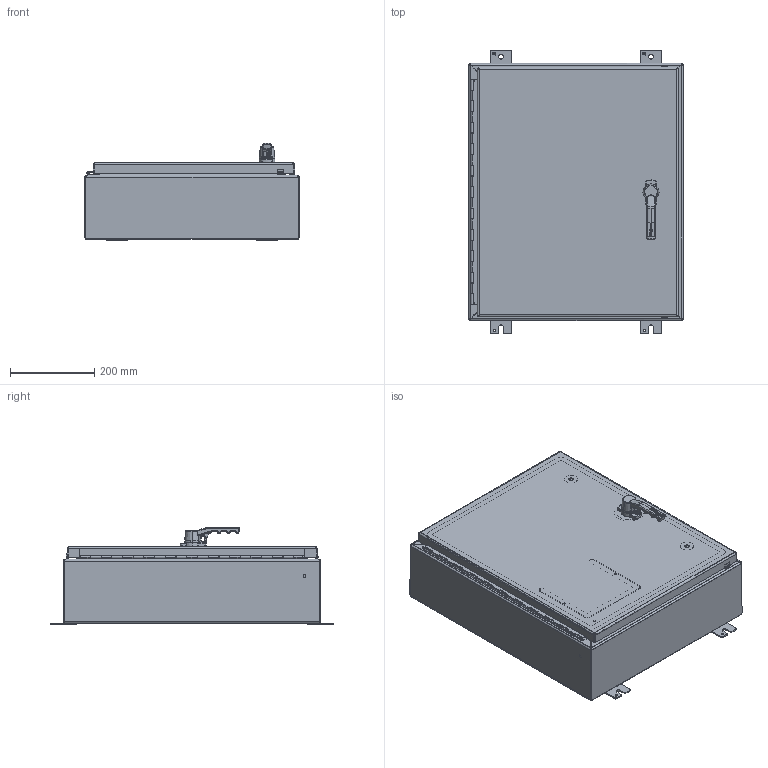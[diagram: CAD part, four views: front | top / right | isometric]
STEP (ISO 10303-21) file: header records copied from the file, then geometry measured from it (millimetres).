
FILE_DESCRIPTION (( 'STEP AP203' ), '1' );
FILE_NAME ('a24h2006sslp3pt.STEP', '2017-11-14T16:50:01', ( '' ), ( '' ), 'SwSTEP 2.0', 'SolidWorks 2014', '' );
FILE_SCHEMA (( 'CONFIG_CONTROL_DESIGN' ));
Length unit declared in the file: inch
Products named in the file (44): 99414350; 26273001_262730001; 89106810; 87785726; 87780544; 22110002; 30101003; 89106811; 89120388; 87780542; 22112003_AFTER WELD; 27115001; 99411273_99411273; 87742780; 87783237; 87784118; 22318002; 89121293_SETTING 1; 87743324; 87783238; 87784044; 26274001_26274001; 26118002_26118002; 89120389_87786283; 87780548; 22118022; 22340005; 89116074; 64138001; 87785132; 87780539; 87751114_87751114; 22275004; 22118322; 24352001; 22101006; 26132002_26132002; 89063446; 22118722; a24h2006sslp3pt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
Assembly tree (63 placements, depth 4):
  a24h2006sslp3pt
    87784118
      22340005
      22275004  x2
      22118722
      99414350
      22110002  x4
      22112003_AFTER WELD  x4
    89116074
      89116063
        87784044
        22118022
        99414350  x3
        87751114_87751114  x2
        89063446
      87780539
        87780544
        87780542
        87783237  x2
        87783238
        87780548
      26132002_26132002  x2
      99409676_SCR,PNHDSM,10-32X.250  x2
      87785726
      89120389_87786283
        89120388
        87742780
        87743324
      87785132
      22101006
      99401515_Open
      89121293_SETTING 1  x2
        89106810
        89106811
        99411273_99411273
      26118002_26118002  x2
      64138001  x2
      24352001
      22318013  x2
      26274001_26274001  x2
        26273001_262730001
        30101003
        27115001
        22318002
    22118322
Bounding box: 508 x 673.1 x 231.11 mm (x, y, z)
Volume: 2395752.2 mm3; surface area: 2552420.7 mm2
Topology: 65 solids, 65 shells, 4797 faces, 12074 edges, 7562 vertices
Faces by surface type: plane 1791, bspline 1360, cylinder 923, torus 438, cone 225, sphere 60
Entity records: 154579 total; most frequent: CARTESIAN_POINT 73848, ORIENTED_EDGE 17272, DIRECTION 13106, EDGE_CURVE 8636, VERTEX_POINT 5445, AXIS2_PLACEMENT_3D 4402, LINE 4302, VECTOR 4302
